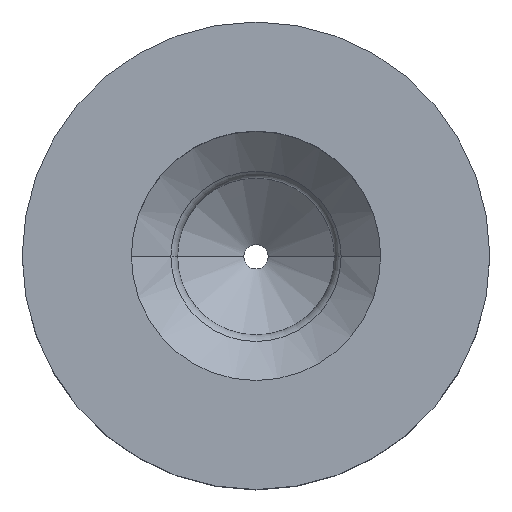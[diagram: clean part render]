
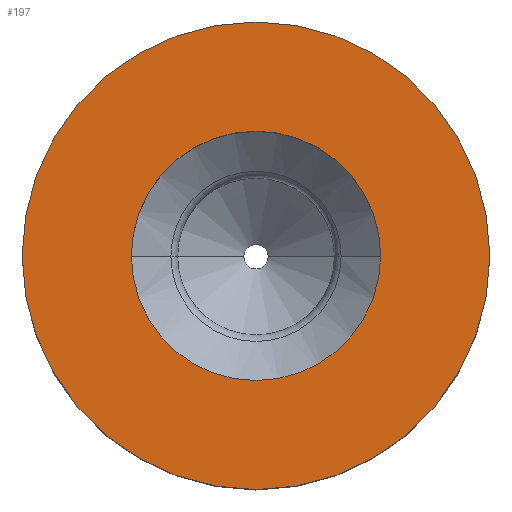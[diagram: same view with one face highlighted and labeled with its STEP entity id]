
A CAD part, top view. The second image highlights one B-rep face of the part: STEP entity #197.
In plain terms, the highlighted planar face has unit normal (0, 0, 1).
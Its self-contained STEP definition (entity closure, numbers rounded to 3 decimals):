
#6 = DIRECTION ( 'NONE',  ( 0., 0., 1. ) ) ;
#14 = ORIENTED_EDGE ( 'NONE', *, *, #928, .F. ) ;
#17 = DIRECTION ( 'NONE',  ( 1., 0., 0. ) ) ;
#36 = DIRECTION ( 'NONE',  ( 1., 0., 0. ) ) ;
#76 = CARTESIAN_POINT ( 'NONE',  ( 0., 0., 0. ) ) ;
#83 = EDGE_CURVE ( 'NONE', #170, #601, #542, .T. ) ;
#160 = CARTESIAN_POINT ( 'NONE',  ( 0., 0., 0. ) ) ;
#170 = VERTEX_POINT ( 'NONE', #687 ) ;
#197 = ADVANCED_FACE ( 'NONE', ( #863, #507 ), #603, .F. ) ;
#218 = EDGE_CURVE ( 'NONE', #662, #324, #874, .T. ) ;
#249 = CARTESIAN_POINT ( 'NONE',  ( -4., 0., 0. ) ) ;
#281 = CIRCLE ( 'NONE', #401, 4. ) ;
#299 = ORIENTED_EDGE ( 'NONE', *, *, #83, .T. ) ;
#309 = DIRECTION ( 'NONE',  ( 0., 0., 1. ) ) ;
#316 = DIRECTION ( 'NONE',  ( 0., 0., -1. ) ) ;
#324 = VERTEX_POINT ( 'NONE', #249 ) ;
#345 = DIRECTION ( 'NONE',  ( 0., 0., 1. ) ) ;
#354 = DIRECTION ( 'NONE',  ( 1., 0., 0. ) ) ;
#356 = CARTESIAN_POINT ( 'NONE',  ( 0., 0., 0. ) ) ;
#366 = EDGE_LOOP ( 'NONE', ( #380, #14 ) ) ;
#374 = AXIS2_PLACEMENT_3D ( 'NONE', #733, #309, #410 ) ;
#380 = ORIENTED_EDGE ( 'NONE', *, *, #218, .F. ) ;
#401 = AXIS2_PLACEMENT_3D ( 'NONE', #356, #345, #354 ) ;
#410 = DIRECTION ( 'NONE',  ( 1., 0., 0. ) ) ;
#438 = CARTESIAN_POINT ( 'NONE',  ( 4., 0., 0. ) ) ;
#452 = AXIS2_PLACEMENT_3D ( 'NONE', #160, #316, #680 ) ;
#473 = AXIS2_PLACEMENT_3D ( 'NONE', #76, #6, #36 ) ;
#503 = CARTESIAN_POINT ( 'NONE',  ( -7.5, 0., 0. ) ) ;
#507 = FACE_BOUND ( 'NONE', #366, .T. ) ;
#520 = EDGE_LOOP ( 'NONE', ( #299, #843 ) ) ;
#542 = CIRCLE ( 'NONE', #722, 7.5 ) ;
#551 = CARTESIAN_POINT ( 'NONE',  ( 0., 0., 0. ) ) ;
#601 = VERTEX_POINT ( 'NONE', #503 ) ;
#603 = PLANE ( 'NONE',  #452 ) ;
#662 = VERTEX_POINT ( 'NONE', #438 ) ;
#680 = DIRECTION ( 'NONE',  ( -1., 0., 0. ) ) ;
#687 = CARTESIAN_POINT ( 'NONE',  ( 7.5, 0., 0. ) ) ;
#722 = AXIS2_PLACEMENT_3D ( 'NONE', #551, #865, #17 ) ;
#733 = CARTESIAN_POINT ( 'NONE',  ( 0., 0., 0. ) ) ;
#747 = CIRCLE ( 'NONE', #473, 7.5 ) ;
#755 = EDGE_CURVE ( 'NONE', #601, #170, #747, .T. ) ;
#843 = ORIENTED_EDGE ( 'NONE', *, *, #755, .T. ) ;
#863 = FACE_OUTER_BOUND ( 'NONE', #520, .T. ) ;
#865 = DIRECTION ( 'NONE',  ( 0., 0., 1. ) ) ;
#874 = CIRCLE ( 'NONE', #374, 4. ) ;
#928 = EDGE_CURVE ( 'NONE', #324, #662, #281, .T. ) ;
